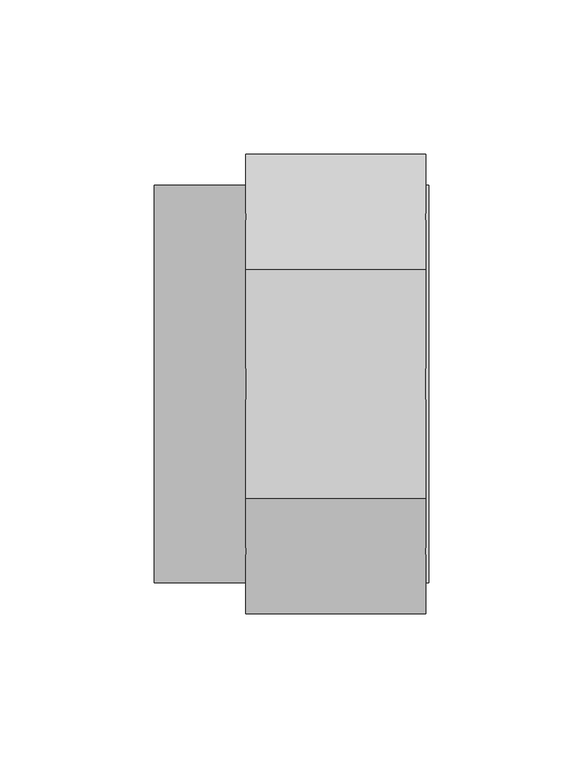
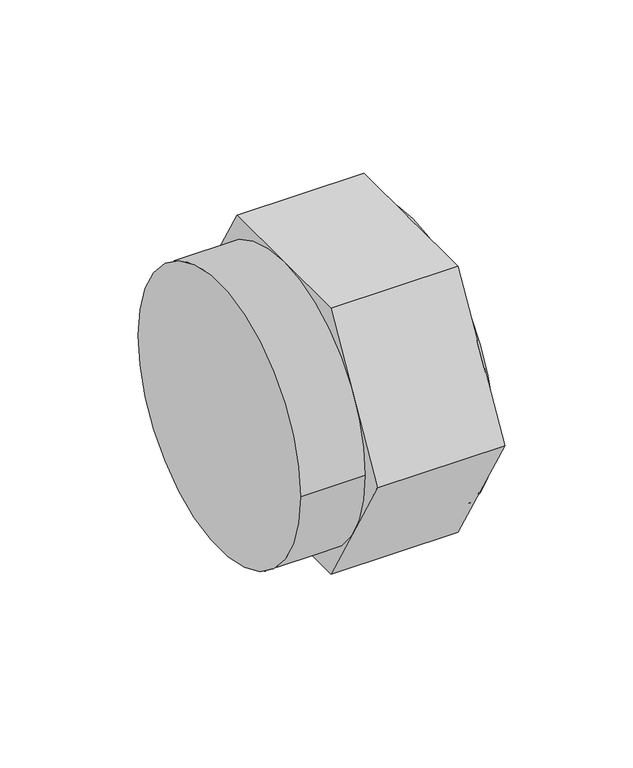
"""IFC4 building model written with IfcOpenShell, lengths in millimetres: pipe fitting geometry, 01011012 : Tapones H."""

from ifc_helpers import new_model, si_unit, point, frame, origin, origin_2d, place, context, project, spatial, polyline, circle_curve, trimmed, segment, composite_curve, outline, extrude, source, transform, mapped, element, save


def pipe_fitting_02092690(model_context):
    return source(origin(), model_context, "Body", "SweptSolid", [
        extrude(outline(composite_curve([segment(trimmed(circle_curve(origin_2d(), 64.5), [point((-64.5, 0.0))], [point((64.5, 0.0))], False, "CARTESIAN"), True, "CONTINUOUS"), segment(trimmed(circle_curve(origin_2d(), 64.5), [point((64.5, 0.0))], [point((-64.5, 0.0))], False, "CARTESIAN"), True, "CONTINUOUS")], self_intersect=False)), frame((88.0, 0.0, 0.0), z_axis=(1.0, 0.0, 0.0), x_axis=(0.0, 1.0, 0.0)), (0.0, 0.0, 1.0), 1.0),
        extrude(outline(composite_curve([segment(trimmed(circle_curve(origin_2d(), 64.5), [point((-64.5, 0.0))], [point((64.5, 0.0))], False, "CARTESIAN"), True, "CONTINUOUS"), segment(trimmed(circle_curve(origin_2d(), 64.5), [point((64.5, 0.0))], [point((-64.5, 0.0))], False, "CARTESIAN"), True, "CONTINUOUS")], self_intersect=False)), frame((0.0, 0.0, 0.0), z_axis=(1.0, 0.0, 0.0), x_axis=(0.0, 1.0, 0.0)), (0.0, 0.0, 1.0), 29.6666667),
        extrude(outline(polyline([(-37.2390924, 64.5), (37.2390924, 64.5), (74.4781847, 0.0), (37.2390924, -64.5), (-37.2390924, -64.5), (-74.4781847, 0.0), (-37.2390924, 64.5)])), frame((29.6666667, 0.0, 0.0), z_axis=(1.0, 0.0, 0.0), x_axis=(0.0, 1.0, 0.0)), (0.0, 0.0, 1.0), 58.3333333),
    ])


if __name__ == "__main__":
    model = new_model("IFC4")
    model_context = context("Model", 3, world=origin())
    ifc_project = project(units=[si_unit("LENGTHUNIT", "METRE", prefix="MILLI")], contexts=[model_context])
    site = spatial("IfcSite", under=ifc_project)
    building = spatial("IfcBuilding", under=site)
    placement = place(None, origin())
    pipe_fitting_shape = pipe_fitting_02092690(model_context)
    element("IfcPipeFitting", 1, ObjectType="01011012 : Tapones H", at=placement, inside=building, context=model_context, shape_type="MappedRepresentation", body=[
        mapped(pipe_fitting_shape, transform((0.0, 0.0, 0.0), x_axis=(1.0, 0.0, 0.0), y_axis=(0.0, 1.0, 0.0), z_axis=(0.0, 0.0, 1.0))),
    ])
    save(model, "model.ifc")
